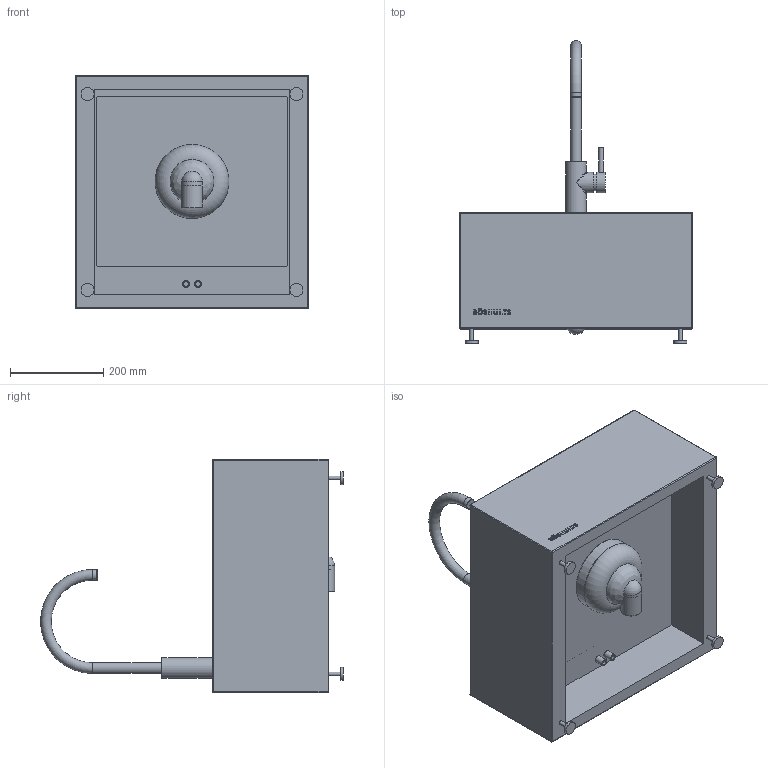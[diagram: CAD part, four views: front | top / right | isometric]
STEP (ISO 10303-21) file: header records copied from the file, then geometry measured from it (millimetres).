
FILE_DESCRIPTION(/* description */ (''),/* implementation_level */ '2;1');
FILE_NAME(/* name */ 'C:\INVENTOR\Workspace\# ARKITEKT FILER\Modules\Sink X\Sink X.stp',/* time_stamp */ '2020-05-05T15:34:55+02:00',/* author */ ('Röshults'),/* organization */ (''),/* preprocessor_version */ 'ST-DEVELOPER v17.2',/* originating_system */ 'Autodesk Inventor 2019',/* authorisation */ '');
FILE_SCHEMA (('AUTOMOTIVE_DESIGN { 1 0 10303 214 3 1 1 }'));
Length unit declared in the file: millimetre
Products named in the file (1): Sink
Bounding box: 500 x 649.5 x 500 mm (x, y, z)
Volume: 22174952.5 mm3; surface area: 1587619.3 mm2
Topology: 1 solids, 2 shells, 361 faces, 864 edges, 561 vertices
Faces by surface type: plane 170, cylinder 107, bspline 47, torus 24, sphere 13
Full cylindrical faces by diameter (mm): 8 x4, 10 x1, 10.411 x1, 10.537 x1, 15 x2, 23 x2, 28 x4, 31 x1, 34 x1, 35.619 x1, 41 x1, 44 x4, 114 x1, 114.018 x1, 154.768 x1, 157.768 x1
Entity records: 13944 total; most frequent: CARTESIAN_POINT 5893, ORIENTED_EDGE 1718, DIRECTION 1489, EDGE_CURVE 859, VERTEX_POINT 561, AXIS2_PLACEMENT_3D 532, LINE 425, VECTOR 425
